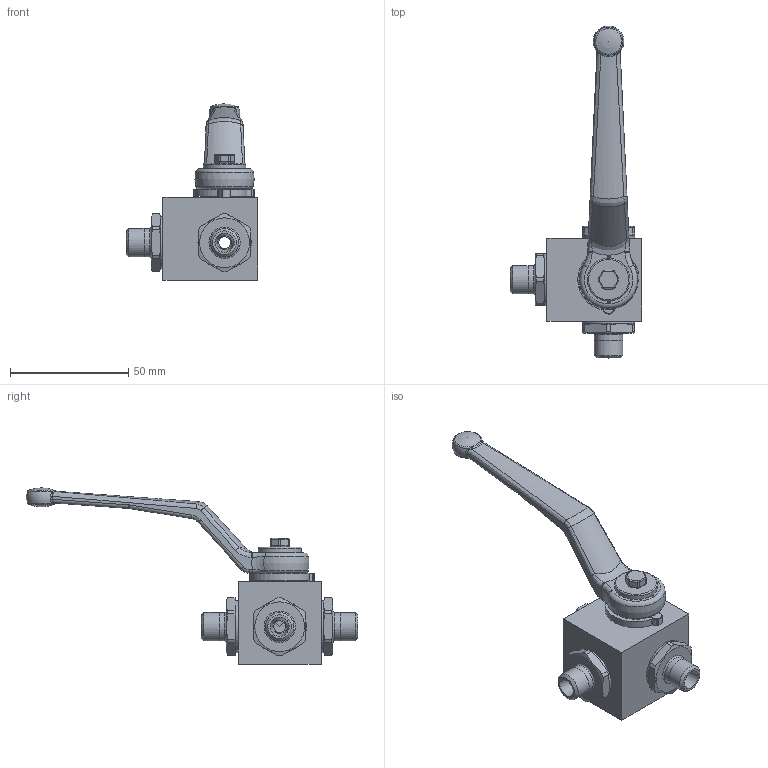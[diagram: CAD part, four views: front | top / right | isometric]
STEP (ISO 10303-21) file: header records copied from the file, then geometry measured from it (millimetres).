
FILE_DESCRIPTION( ( 'Unknown' ), '1' );
FILE_NAME( 'H:/PISTER/3D-MODELLE/BK3-Edelstahl stp/BK3-Edelst DN4 6L.stp', 'Unknown', ( 'Unknown' ), ( 'Unknown' ), 'PSStep 14.0', 'Unknown', ' ' );
FILE_SCHEMA( ( 'AUTOMOTIVE_DESIGN { 1 0 10303 214 1 1 1 1 }' ) );
Length unit declared in the file: millimetre
Products named in the file (11): Assem1; 03-008-006-oa2; 04-004-015-oa3; 04-004-015-oa4; 56-032-337-oa8; 09-09-003; 58-28740-16-oa9; 58-0440-009; 06-008-007-oa11; Griff_SW9; 01-008-020-oa12
Assembly tree (10 placements, depth 2):
  Assem1
    03-008-006-oa2
    04-004-015-oa3
    04-004-015-oa4
    56-032-337-oa8
    09-09-003
    58-28740-16-oa9
    58-0440-009
    06-008-007-oa11
    Griff_SW9
    01-008-020-oa12
Bounding box: 55.5 x 140 x 74.4 mm (x, y, z)
Volume: 55163.7 mm3; surface area: 25284.6 mm2
Topology: 10 solids, 10 shells, 371 faces, 915 edges, 573 vertices
Faces by surface type: cylinder 128, plane 123, cone 43, torus 37, bspline 36, sphere 4
Full cylindrical faces by diameter (mm): 4.134 x1, 4.98 x1, 5 x4, 5.8 x1, 6 x3, 7 x1, 12 x6, 14 x2, 17.1 x1, 18 x1, 18.376 x1, 18.5 x1, 20 x1, 20.3 x1, 21 x4, 22 x3, 22.5 x3
Entity records: 15268 total; most frequent: CARTESIAN_POINT 4040, DIRECTION 1683, ORIENTED_EDGE 1608, EDGE_CURVE 804, AXIS2_PLACEMENT_3D 694, VERTEX_POINT 536, EDGE_LOOP 472, FACE_OUTER_BOUND 419
